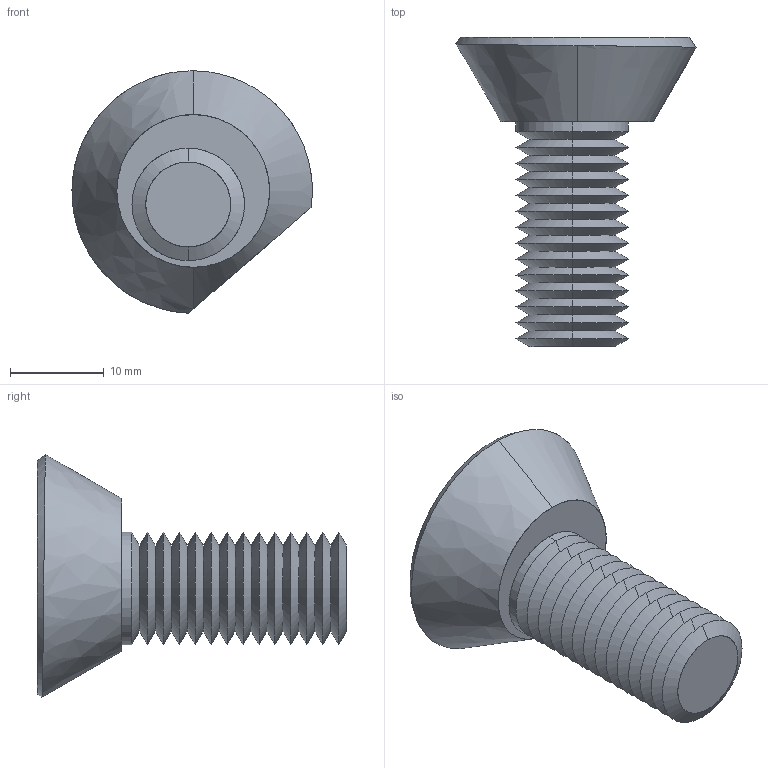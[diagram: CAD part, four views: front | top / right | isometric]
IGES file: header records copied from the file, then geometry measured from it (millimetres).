
Start section: SolidWorks IGES file using analytic representation for surfaces
Global section: file name: C:\Users\IanO\Desktop\Temp File\General\12111_v2\12111_v2_20180517_IGES\12111.W0012.igs; native system: SolidWorks 2017; preprocessor: SolidWorks 2017; author: IanO; date: 180522.151953; units: millimetre
Bounding box: 25.61 x 33 x 25.86 mm (x, y, z)
Surface area: 3074.9 mm2 (no closed solid volume)
Topology: 0 solids, 0 shells, 84 faces, 661 edges, 659 vertices
Faces by surface type: revolution 67, bspline 17
